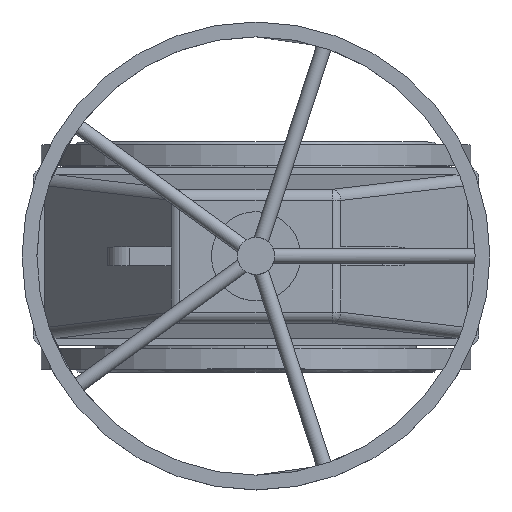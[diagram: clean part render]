
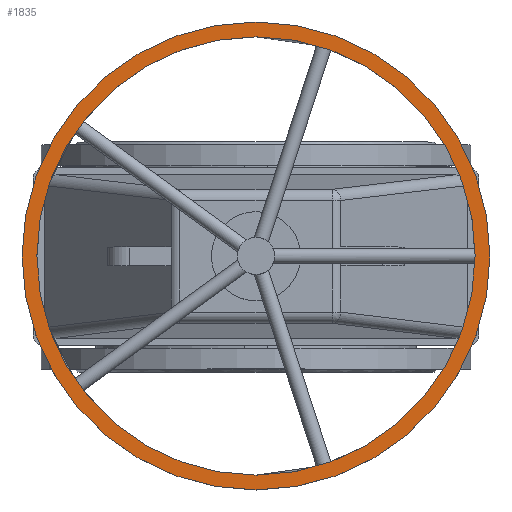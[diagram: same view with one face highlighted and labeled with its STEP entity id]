
A CAD part, top view. The second image highlights one B-rep face of the part: STEP entity #1835.
In plain terms, the highlighted planar face has unit normal (0, 0, 1).
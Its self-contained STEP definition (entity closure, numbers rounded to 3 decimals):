
#1835=ADVANCED_FACE('',(#4276,#4278),#4280,.T.);
#4276=FACE_BOUND('',#4277,.T.);
#4277=EDGE_LOOP('',(#5413));
#4278=FACE_BOUND('',#4279,.T.);
#4279=EDGE_LOOP('',(#5414));
#4280=PLANE('',#4281);
#4281=AXIS2_PLACEMENT_3D('',#4282,#4283,#4284);
#4282=CARTESIAN_POINT('',(0.,0.,950.5));
#4283=DIRECTION('',(0.,0.,1.));
#4284=DIRECTION('',(0.,-1.,0.));
#5413=ORIENTED_EDGE('',*,*,#5975,.T.);
#5414=ORIENTED_EDGE('',*,*,#5973,.T.);
#5973=EDGE_CURVE('',#6915,#6915,#6916,.F.);
#5975=EDGE_CURVE('',#6919,#6919,#6920,.T.);
#6915=VERTEX_POINT('',#12025);
#6916=CIRCLE('',#12026,295.);
#6919=VERTEX_POINT('',#12035);
#6920=CIRCLE('',#12036,315.);
#12025=CARTESIAN_POINT('',(0.,-295.,950.5));
#12026=AXIS2_PLACEMENT_3D('',#12027,#12028,#12029);
#12027=CARTESIAN_POINT('',(0.,0.,950.5));
#12028=DIRECTION('',(0.,0.,1.));
#12029=DIRECTION('',(0.,-1.,0.));
#12035=CARTESIAN_POINT('',(0.,-315.,950.5));
#12036=AXIS2_PLACEMENT_3D('',#12037,#12038,#12039);
#12037=CARTESIAN_POINT('',(0.,0.,950.5));
#12038=DIRECTION('',(0.,0.,1.));
#12039=DIRECTION('',(0.,-1.,0.));
